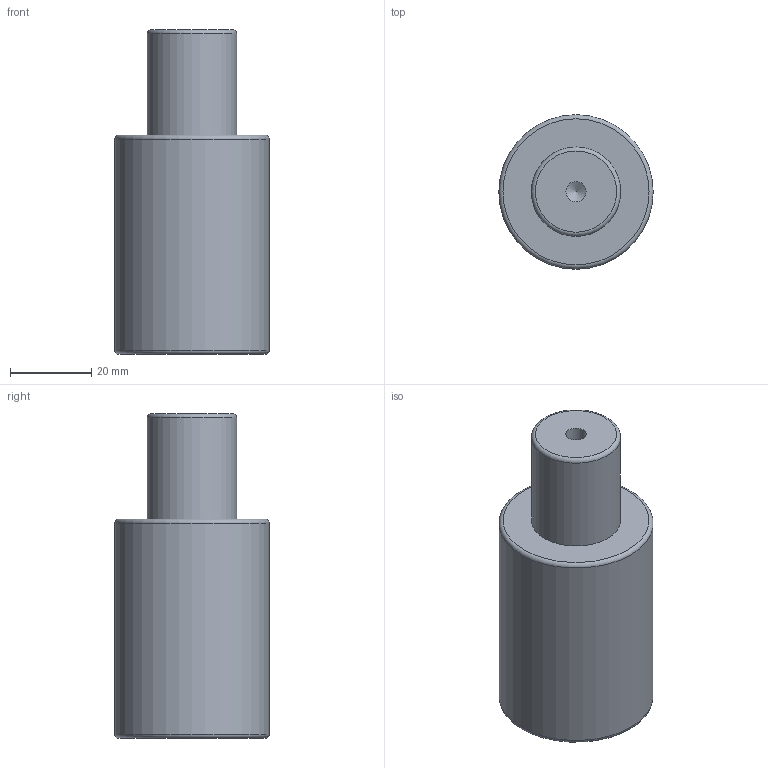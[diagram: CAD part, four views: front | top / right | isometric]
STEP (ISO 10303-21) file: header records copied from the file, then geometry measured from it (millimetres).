
FILE_DESCRIPTION(/* description */ (''),/* implementation_level */ '2;1');
FILE_NAME(/* name */ 'NV5-SMLX.38x25.stp',/* time_stamp */ '2018-08-31T16:08:35+02:00',/* author */ (''),/* organization */ (''),/* preprocessor_version */ 'ST-DEVELOPER v16',/* originating_system */ 'SIEMENS PLM Software NX 10.0',/* authorisation */ '');
FILE_SCHEMA (('AUTOMOTIVE_DESIGN { 1 0 10303 214 3 1 1 1 }'));
Length unit declared in the file: millimetre
Products named in the file (1): NV5-SMLX.38x25
Bounding box: 38 x 38 x 80 mm (x, y, z)
Volume: 70228.9 mm3; surface area: 10902.2 mm2
Topology: 1 solids, 1 shells, 12 faces, 24 edges, 15 vertices
Faces by surface type: cylinder 4, torus 3, plane 3, cone 2
Full cylindrical faces by diameter (mm): 5 x1, 6.8 x1, 22 x1, 38 x1
Entity records: 266 total; most frequent: DIRECTION 48, CARTESIAN_POINT 37, FACE_BOUND 24, AXIS2_PLACEMENT_3D 24, EDGE_LOOP 22, ORIENTED_EDGE 22, VERTEX_POINT 13, ADVANCED_FACE 12
